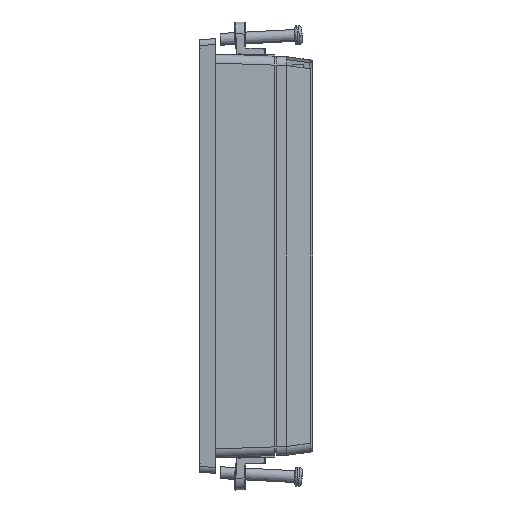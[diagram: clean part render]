
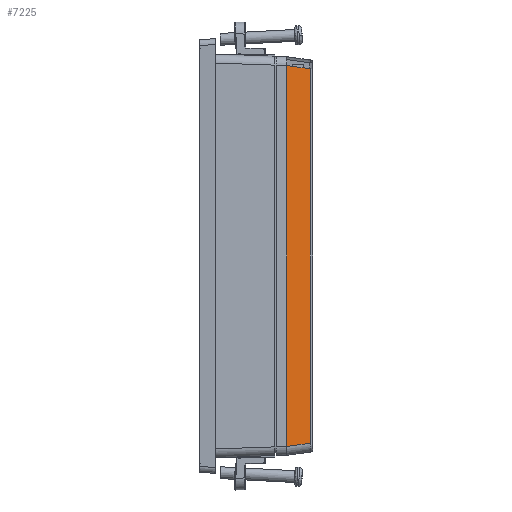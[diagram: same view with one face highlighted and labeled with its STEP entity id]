
A CAD part, left-side view. The second image highlights one B-rep face of the part: STEP entity #7225.
In plain terms, the highlighted planar face has unit normal (-0.99, -0.139, 0).
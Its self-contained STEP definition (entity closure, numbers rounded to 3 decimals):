
#7225=ADVANCED_FACE('',(#10004),#77188,.T.);
#10004=FACE_OUTER_BOUND('',#12830,.T.);
#12830=EDGE_LOOP('',(#17352,#17353,#17354,#17355,#17356,#17357));
#17352=ORIENTED_EDGE('',*,*,#32168,.T.);
#17353=ORIENTED_EDGE('',*,*,#32169,.T.);
#17354=ORIENTED_EDGE('',*,*,#32170,.T.);
#17355=ORIENTED_EDGE('',*,*,#32171,.T.);
#17356=ORIENTED_EDGE('',*,*,#32172,.T.);
#17357=ORIENTED_EDGE('',*,*,#32173,.T.);
#32168=EDGE_CURVE('',#64133,#64134,#49957,.T.);
#32169=EDGE_CURVE('',#64134,#64135,#49958,.T.);
#32170=EDGE_CURVE('',#64135,#64136,#49959,.T.);
#32171=EDGE_CURVE('',#64136,#64137,#49960,.T.);
#32172=EDGE_CURVE('',#64137,#64138,#49961,.T.);
#32173=EDGE_CURVE('',#64138,#64133,#49962,.T.);
#49957=B_SPLINE_CURVE_WITH_KNOTS('',1,(#92587,#92588),.UNSPECIFIED.,.F.,
 .F.,(2,2),(0.,8.138),.UNSPECIFIED.);
#49958=B_SPLINE_CURVE_WITH_KNOTS('',1,(#92589,#92590),.UNSPECIFIED.,.F.,
 .F.,(2,2),(0.,126.231),.UNSPECIFIED.);
#49959=B_SPLINE_CURVE_WITH_KNOTS('',1,(#92591,#92592),.UNSPECIFIED.,.F.,
 .F.,(2,2),(0.,8.138),.UNSPECIFIED.);
#49960=B_SPLINE_CURVE_WITH_KNOTS('',3,(#92593,#92594,#92595,#92596,#92597,
#92598),.UNSPECIFIED.,.F.,.F.,(4,1,1,4),(0.,0.009,0.018,
0.027),.UNSPECIFIED.);
#49961=B_SPLINE_CURVE_WITH_KNOTS('',1,(#92599,#92600),.UNSPECIFIED.,.F.,
 .F.,(2,2),(0.,128.42),.UNSPECIFIED.);
#49962=B_SPLINE_CURVE_WITH_KNOTS('',3,(#92601,#92602,#92603,#92604,#92605,
#92606),.UNSPECIFIED.,.F.,.F.,(4,1,1,4),(0.,0.009,0.018,
0.027),.UNSPECIFIED.);
#64133=VERTEX_POINT('',#92581);
#64134=VERTEX_POINT('',#92582);
#64135=VERTEX_POINT('',#92583);
#64136=VERTEX_POINT('',#92584);
#64137=VERTEX_POINT('',#92585);
#64138=VERTEX_POINT('',#92586);
#77188=PLANE('',#78959);
#78959=AXIS2_PLACEMENT_3D('',#92580,#81288,$);
#81288=DIRECTION('',(-0.99,-0.139,0.));
#92580=CARTESIAN_POINT('',(-94.323,-4.245,-77.097));
#92581=CARTESIAN_POINT('',(-94.208,-5.058,-64.237));
#92582=CARTESIAN_POINT('',(-93.086,-13.039,-63.116));
#92583=CARTESIAN_POINT('',(-93.086,-13.039,63.116));
#92584=CARTESIAN_POINT('',(-94.208,-5.058,64.237));
#92585=CARTESIAN_POINT('',(-94.208,-5.056,64.21));
#92586=CARTESIAN_POINT('',(-94.208,-5.056,-64.21));
#92587=CARTESIAN_POINT('',(-94.208,-5.058,-64.237));
#92588=CARTESIAN_POINT('',(-93.086,-13.039,-63.116));
#92589=CARTESIAN_POINT('',(-93.086,-13.039,-63.116));
#92590=CARTESIAN_POINT('',(-93.086,-13.039,63.116));
#92591=CARTESIAN_POINT('',(-93.086,-13.039,63.116));
#92592=CARTESIAN_POINT('',(-94.208,-5.058,64.237));
#92593=CARTESIAN_POINT('',(-94.208,-5.058,64.237));
#92594=CARTESIAN_POINT('',(-94.208,-5.057,64.234));
#92595=CARTESIAN_POINT('',(-94.208,-5.057,64.228));
#92596=CARTESIAN_POINT('',(-94.208,-5.056,64.219));
#92597=CARTESIAN_POINT('',(-94.208,-5.056,64.213));
#92598=CARTESIAN_POINT('',(-94.208,-5.056,64.21));
#92599=CARTESIAN_POINT('',(-94.208,-5.056,64.21));
#92600=CARTESIAN_POINT('',(-94.208,-5.056,-64.21));
#92601=CARTESIAN_POINT('',(-94.208,-5.056,-64.21));
#92602=CARTESIAN_POINT('',(-94.208,-5.056,-64.213));
#92603=CARTESIAN_POINT('',(-94.208,-5.056,-64.219));
#92604=CARTESIAN_POINT('',(-94.208,-5.057,-64.228));
#92605=CARTESIAN_POINT('',(-94.208,-5.057,-64.234));
#92606=CARTESIAN_POINT('',(-94.208,-5.058,-64.237));
